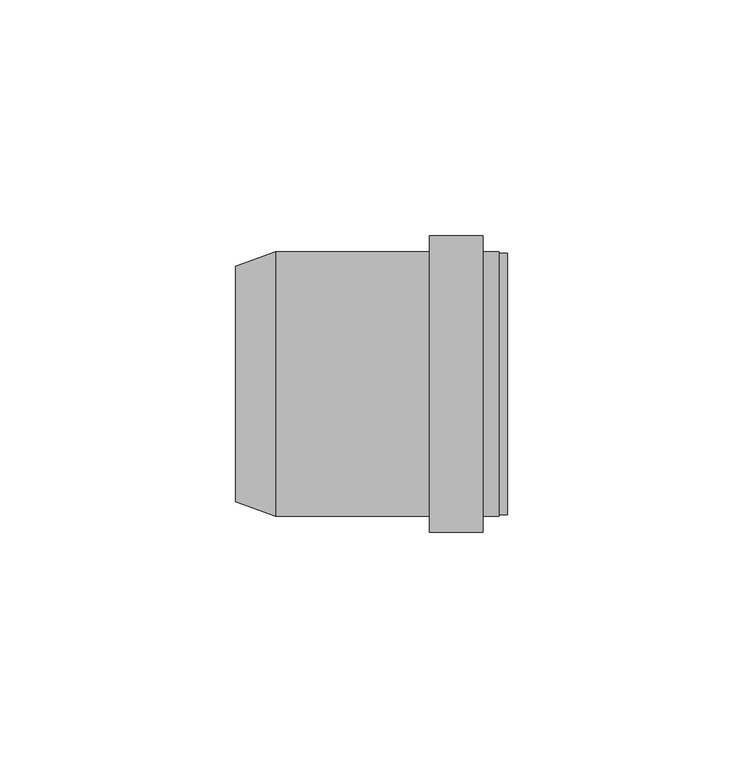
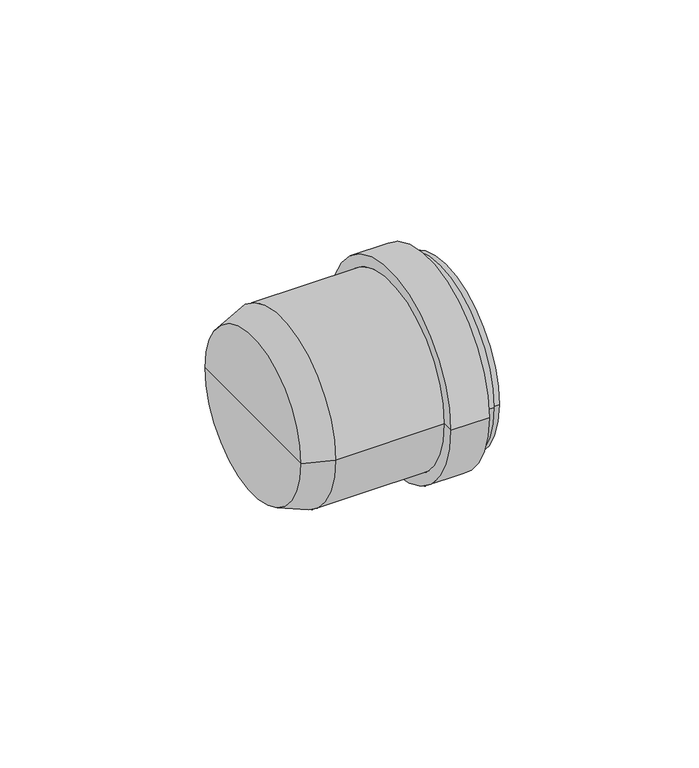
"""IFC4 building model written with IfcOpenShell, lengths in millimetres: pipe fitting geometry, pf_HTM_zatka : pf_HTM_zatka."""

import ifcopenshell
import ifcopenshell.guid

model = None  # the IFC model being written
_history = None  # IfcOwnerHistory: only IFC2X3 demands one
_inside = {}  # id of a spatial element -> (the spatial element, [elements in it])
_under = {}  # id of a project, library or spatial element -> (it, [spatial elements below it])
_declared = {}  # id of a project -> (the project, [libraries it declares])
_typed = {}  # id of a type object -> (the type object, [elements of that type])
_made_of = {}  # id of a material, layer set ... -> (it, [elements and type objects made of it])


def new_model(schema):
    """Start an empty IFC model of exactly this schema.

    Asked for "IFC4X3", IfcOpenShell would pick the latest addendum, in which some entities
    have other attributes; the version numbers below select the first issue.
    IFC2X3 requires an IfcOwnerHistory on every rooted entity: one is made here for all.
    """
    global model, _history
    if schema == "IFC4X3":
        model = ifcopenshell.file(schema_version=(4, 3, 0, 0))
    else:
        model = ifcopenshell.file(schema=schema)
    _inside.clear()
    _under.clear()
    _declared.clear()
    _typed.clear()
    _made_of.clear()
    _history = None
    if model.schema == "IFC2X3":
        org = make("IfcOrganization", Name="unknown")
        user = make(
            "IfcPersonAndOrganization",
            ThePerson=make("IfcPerson", FamilyName="unknown"),
            TheOrganization=org,
        )
        app = make(
            "IfcApplication",
            ApplicationDeveloper=org,
            Version="unknown",
            ApplicationFullName="unknown",
            ApplicationIdentifier="unknown",
        )
        _history = make(
            "IfcOwnerHistory",
            OwningUser=user,
            OwningApplication=app,
            ChangeAction="ADDED",
            CreationDate=0,
        )
    return model


def make(cls, **values):
    """One entity of the class cls with the attributes given. An attribute that is None is left unset."""
    return model.create_entity(
        cls, **{name: value for name, value in values.items() if value is not None}
    )


def rooted(cls, **values):
    """An entity with a GlobalId (a new one), such as an element, a storey or a relation."""
    return make(cls, GlobalId=ifcopenshell.guid.new(), OwnerHistory=_history, **values)


def si_unit(unit_type, name, prefix=None):
    """IfcSIUnit, for example si_unit("LENGTHUNIT", "METRE", prefix="MILLI")."""
    return make("IfcSIUnit", UnitType=unit_type, Prefix=prefix, Name=name)


def assignment(units):
    """IfcUnitAssignment: the units of a project."""
    return None if units is None else make("IfcUnitAssignment", Units=units)


def point(xyz):
    """IfcCartesianPoint."""
    return None if xyz is None else make("IfcCartesianPoint", Coordinates=xyz)


def direction(xyz):
    """IfcDirection."""
    return None if xyz is None else make("IfcDirection", DirectionRatios=xyz)


def frame(location, z_axis=None, x_axis=None):
    """IfcAxis2Placement3D, a coordinate frame: its origin and axes. An axis left out is left unset."""
    return make(
        "IfcAxis2Placement3D",
        Location=point(location),
        Axis=direction(z_axis),
        RefDirection=direction(x_axis),
    )


def origin():
    """The frame at (0, 0, 0) with its axes left unset."""
    return frame((0.0, 0.0, 0.0))


def place(relative_to, where):
    """IfcLocalPlacement: puts the frame where relative to a parent placement (None: the world)."""
    return make(
        "IfcLocalPlacement", PlacementRelTo=relative_to, RelativePlacement=where
    )


def context(
    kind, dimensions, precision=None, world=None, true_north=None, identifier=None
):
    """IfcGeometricRepresentationContext, for example the 3D "Model" context."""
    return make(
        "IfcGeometricRepresentationContext",
        ContextIdentifier=identifier,
        ContextType=kind,
        CoordinateSpaceDimension=dimensions,
        Precision=precision,
        WorldCoordinateSystem=world,
        TrueNorth=true_north,
    )


def project(units=None, contexts=None):
    """IfcProject with its units and contexts."""
    return rooted(
        "IfcProject",
        Name="project",
        RepresentationContexts=contexts,
        UnitsInContext=assignment(units),
    )


def spatial(cls, under=None, at=None, **own):
    """A site, building, storey or space (cls), placed at a placement, below another one or the project."""
    s = rooted(cls, ObjectPlacement=at, **own)
    if under is not None:
        _under.setdefault(under.id(), (under, []))[1].append(s)
    return s


def polyline(points):
    """IfcPolyline through the points."""
    return make("IfcPolyline", Points=[point(p) for p in points])


def circle_curve(where, radius):
    """IfcCircle in the frame where."""
    return make("IfcCircle", Position=where, Radius=radius)


def shape(context_of_items, identifier, shape_type, items):
    """IfcShapeRepresentation: the items that make up one representation, for example the "Body"."""
    return make(
        "IfcShapeRepresentation",
        ContextOfItems=context_of_items,
        RepresentationIdentifier=identifier,
        RepresentationType=shape_type,
        Items=items,
    )


def source(mapping_origin, context_of_items, identifier, shape_type, items):
    """IfcRepresentationMap: a shape defined once, which mapped items show again and again."""
    return make(
        "IfcRepresentationMap",
        MappingOrigin=mapping_origin,
        MappedRepresentation=shape(context_of_items, identifier, shape_type, items),
    )


def transform(
    local_origin,
    x_axis=None,
    y_axis=None,
    z_axis=None,
    scale=None,
    scale2=None,
    scale3=None,
    uniform=True,
):
    """IfcCartesianTransformationOperator3D, or its non-uniform kind. x_axis, y_axis, z_axis: its Axis1, 2, 3."""
    if uniform:
        return make(
            "IfcCartesianTransformationOperator3D",
            Axis1=direction(x_axis),
            Axis2=direction(y_axis),
            LocalOrigin=point(local_origin),
            Scale=scale,
            Axis3=direction(z_axis),
        )
    return make(
        "IfcCartesianTransformationOperator3DnonUniform",
        Axis1=direction(x_axis),
        Axis2=direction(y_axis),
        LocalOrigin=point(local_origin),
        Scale=scale,
        Axis3=direction(z_axis),
        Scale2=scale2,
        Scale3=scale3,
    )


def mapped(mapping_source, mapping_target):
    """IfcMappedItem: shows the shape of a source again, moved by a transform."""
    return make(
        "IfcMappedItem", MappingSource=mapping_source, MappingTarget=mapping_target
    )


def made_of(thing, what):
    """Note that an element or type object is made of a material, layer set ...; save() writes the relation."""
    if what is not None:
        _made_of.setdefault(what.id(), (what, []))[1].append(thing)
    return thing


def element(
    cls,
    number,
    at=None,
    inside=None,
    cuts=None,
    type_object=None,
    material=None,
    context=None,
    identifier="Body",
    shape_type=None,
    held_by="IfcProductDefinitionShape",
    body=None,
    shapes=None,
    **own,
):
    """One element of the class cls, such as IfcWall. Its Tag is "e" and its number.

    at: its placement. inside: the storey or other place that contains it. cuts: it is an
    opening in that element (IfcRelVoidsElement). A single representation is given by context,
    identifier, shape_type and body (its items); several are given by shapes. held_by: the class
    of the entity that holds the representations. save() writes the other relations.
    """
    e = rooted(cls, Tag="e%d" % number, ObjectPlacement=at, **own)
    if body is not None:
        shapes = [shape(context, identifier, shape_type, body)]
    if shapes is not None:
        e.Representation = make(held_by, Representations=shapes)
    if inside is not None:
        _inside.setdefault(inside.id(), (inside, []))[1].append(e)
    if cuts is not None:
        rooted(
            "IfcRelVoidsElement", RelatingBuildingElement=cuts, RelatedOpeningElement=e
        )
    if type_object is not None:
        _typed.setdefault(type_object.id(), (type_object, []))[1].append(e)
    return made_of(e, material)


def aggregate(whole, parts):
    """IfcRelAggregates: a whole, such as a stair, and the parts it consists of."""
    return rooted("IfcRelAggregates", RelatingObject=whole, RelatedObjects=parts)


def save(model, path):
    """Write the relations noted so far, then the file.

    IfcRelAggregates (storeys below a building ...), IfcRelContainedInSpatialStructure (elements
    in a storey), IfcRelDefinesByType, IfcRelAssociatesMaterial and IfcRelDeclares: one each for
    every whole, place, type object, material and project.
    """
    for whole, parts in _under.values():
        aggregate(whole, parts)
    for where, things in _inside.values():
        rooted(
            "IfcRelContainedInSpatialStructure",
            RelatedElements=things,
            RelatingStructure=where,
        )
    for kind, things in _typed.values():
        rooted("IfcRelDefinesByType", RelatedObjects=things, RelatingType=kind)
    for what, things in _made_of.values():
        rooted("IfcRelAssociatesMaterial", RelatedObjects=things, RelatingMaterial=what)
    for by, libraries in _declared.values():
        rooted("IfcRelDeclares", RelatingContext=by, RelatedDefinitions=libraries)
    model.write(path)


def plane_surface(at):
    """IfcPlane: the flat surface through the origin of the frame at, square to its z axis."""
    return make("IfcPlane", Position=at)


def cylinder_surface(at, radius):
    """IfcCylindricalSurface: all points at the distance radius from the z axis of the frame at."""
    return make("IfcCylindricalSurface", Position=at, Radius=radius)


def revolved_surface(curve, axis_point, axis_direction):
    """IfcSurfaceOfRevolution: the curve turned about the line through axis_point along axis_direction."""
    return make(
        "IfcSurfaceOfRevolution",
        SweptCurve=make("IfcArbitraryOpenProfileDef", ProfileType="CURVE", Curve=curve),
        AxisPosition=make("IfcAxis1Placement", Location=point(axis_point), Axis=direction(axis_direction)),
    )


def advanced_brep(points, edges, surfaces, faces):
    """IfcAdvancedBrep: a solid bounded by faces that lie on surfaces and meet in shared edges.

    An edge is (start, end): straight between two places in points (the first is 0);
    or (start, end, curve); or (start, end, curve, False) where it runs against its curve.
    A face is (place in surfaces, loops), or (place, loops, False) where it looks against
    its surface's normal. A loop lists edges by number (the first is 1), with a minus sign
    where the edge is run from its end to its start. The first loop is the outer one.
    """
    corners = [point(p) for p in points]
    vertices = [make("IfcVertexPoint", VertexGeometry=c) for c in corners]
    made = []
    for start, end, *more in edges:
        made.append(
            make(
                "IfcEdgeCurve",
                EdgeStart=vertices[start],
                EdgeEnd=vertices[end],
                EdgeGeometry=more[0] if more else make("IfcPolyline", Points=[corners[start], corners[end]]),
                SameSense=more[1] if len(more) > 1 else True,
            )
        )
    hull = []
    for where, loops, *sense in faces:
        bounds = []
        for j, loop in enumerate(loops):
            ring = [make("IfcOrientedEdge", EdgeElement=made[abs(k) - 1], Orientation=k > 0) for k in loop]
            bounds.append(
                make(
                    "IfcFaceOuterBound" if j == 0 else "IfcFaceBound",
                    Bound=make("IfcEdgeLoop", EdgeList=ring),
                    Orientation=True,
                )
            )
        hull.append(make("IfcAdvancedFace", Bounds=bounds, FaceSurface=surfaces[where], SameSense=sense[0] if sense else True))
    return make("IfcAdvancedBrep", Outer=make("IfcClosedShell", CfsFaces=hull))


def pipe_fitting_10db389b(model_context):
    return source(origin(), model_context, "Body", "AdvancedBrep", [
        advanced_brep(
        [(-56.0, -25.0, 0.0), (-56.0, 25.0, 0.0), (-47.5, 28.1, 0.0), (-47.5, -28.1, 0.0), (-56.0, 0.0, 0.0), (0.0, -28.1, 0.0), (0.0, 28.1, 0.0), (0.0, 0.0, 0.0), (-3.4, -28.1, 0.0), (-3.4, 28.1, 0.0), (-3.4, -31.5, 0.0), (-3.4, 31.5, 0.0), (-14.8, -31.5, 0.0), (-14.8, 31.5, 0.0), (-14.8, -28.1, 0.0), (-14.8, 28.1, 0.0)],
        [
            (0, 1, circle_curve(frame((-56.0, 0.0, 0.0), z_axis=(1.0, 0.0, 0.0), x_axis=(0.0, 1.0, 0.0)), 25.0)),
            (1, 2),
            (2, 3, circle_curve(frame((-47.5, 0.0, 0.0), z_axis=(-1.0, 0.0, 0.0), x_axis=(0.0, 1.0, 0.0)), 28.1)),
            (3, 0),
            (1, 0, circle_curve(frame((-56.0, 0.0, 0.0), z_axis=(1.0, 0.0, 0.0), x_axis=(0.0, 1.0, 0.0)), 25.0)),
            (3, 2, circle_curve(frame((-47.5, 0.0, 0.0), z_axis=(-1.0, 0.0, 0.0), x_axis=(0.0, 1.0, 0.0)), 28.1)),
            (4, 1),
            (0, 4),
            (5, 6, circle_curve(frame((0.0, 0.0, 0.0), z_axis=(1.0, 0.0, 0.0), x_axis=(0.0, 1.0, 0.0)), 28.1)),
            (6, 7),
            (7, 5),
            (6, 5, circle_curve(frame((0.0, 0.0, 0.0), z_axis=(1.0, 0.0, 0.0), x_axis=(0.0, 1.0, 0.0)), 28.1)),
            (8, 9, circle_curve(frame((-3.4, 0.0, 0.0), z_axis=(1.0, 0.0, 0.0), x_axis=(0.0, 1.0, 0.0)), 28.1)),
            (9, 6),
            (5, 8),
            (9, 8, circle_curve(frame((-3.4, 0.0, 0.0), z_axis=(1.0, 0.0, 0.0), x_axis=(0.0, 1.0, 0.0)), 28.1)),
            (10, 11, circle_curve(frame((-3.4, 0.0, 0.0), z_axis=(1.0, 0.0, 0.0), x_axis=(0.0, 1.0, 0.0)), 31.5)),
            (11, 9),
            (8, 10),
            (11, 10, circle_curve(frame((-3.4, 0.0, 0.0), z_axis=(1.0, 0.0, 0.0), x_axis=(0.0, 1.0, 0.0)), 31.5)),
            (12, 13, circle_curve(frame((-14.8, 0.0, 0.0), z_axis=(1.0, 0.0, 0.0), x_axis=(0.0, 1.0, 0.0)), 31.5)),
            (13, 11),
            (10, 12),
            (13, 12, circle_curve(frame((-14.8, 0.0, 0.0), z_axis=(1.0, 0.0, 0.0), x_axis=(0.0, 1.0, 0.0)), 31.5)),
            (14, 15, circle_curve(frame((-14.8, 0.0, 0.0), z_axis=(1.0, 0.0, 0.0), x_axis=(0.0, 1.0, 0.0)), 28.1)),
            (15, 13),
            (12, 14),
            (15, 14, circle_curve(frame((-14.8, 0.0, 0.0), z_axis=(1.0, 0.0, 0.0), x_axis=(0.0, 1.0, 0.0)), 28.1)),
            (2, 15),
            (14, 3),
        ],
        [
            revolved_surface(polyline([(-47.5, 28.1, 0.0), (-56.0, 25.0, 0.0)]), (-56.0, 0.0, 0.0), (-1.0, 0.0, 0.0)),
            plane_surface(frame((-56.0, 0.0, 0.0), z_axis=(-1.0, 0.0, 0.0), x_axis=(0.0, 1.0, 0.0))),
            plane_surface(frame((0.0, 0.0, 0.0), z_axis=(1.0, 0.0, 0.0), x_axis=(0.0, 1.0, 0.0))),
            cylinder_surface(frame((-56.0, 0.0, 0.0), z_axis=(-1.0, 0.0, 0.0), x_axis=(0.0, 1.0, 0.0)), 28.1),
            plane_surface(frame((-3.4, 0.0, 0.0), z_axis=(1.0, 0.0, 0.0), x_axis=(0.0, 1.0, 0.0))),
            cylinder_surface(frame((-56.0, 0.0, 0.0), z_axis=(-1.0, 0.0, 0.0), x_axis=(0.0, 1.0, 0.0)), 31.5),
            plane_surface(frame((-14.8, 0.0, 0.0), z_axis=(-1.0, 0.0, 0.0), x_axis=(0.0, 1.0, 0.0))),
        ],
        [
            (0, [[1, 2, 3, 4]]),
            (0, [[5, -4, 6, -2]]),
            (1, [[7, -1, 8]]),
            (1, [[-8, -5, -7]]),
            (2, [[9, 10, 11]]),
            (2, [[12, -11, -10]]),
            (3, [[13, 14, -9, 15]]),
            (3, [[16, -15, -12, -14]]),
            (4, [[17, 18, -13, 19]]),
            (4, [[20, -19, -16, -18]]),
            (5, [[21, 22, -17, 23]]),
            (5, [[24, -23, -20, -22]]),
            (6, [[25, 26, -21, 27]]),
            (6, [[28, -27, -24, -26]]),
            (3, [[-3, 29, -25, 30]]),
            (3, [[-6, -30, -28, -29]]),
        ],
    ),
        advanced_brep(
        [(-38.0, 0.0, 0.0), (-38.0, 25.0, 0.0), (-38.0, -25.0, 0.0), (1.8, -27.74, 0.0), (1.8, 27.74, 0.0), (1.8, 0.0, 0.0), (0.0, -27.74, 0.0), (0.0, 27.74, 0.0), (0.0, -25.94, 0.0), (0.0, 25.94, 0.0), (-34.0, -25.94, 0.0), (-34.0, 25.94, 0.0)],
        [
            (0, 1),
            (1, 2, circle_curve(frame((-38.0, 0.0, 0.0), z_axis=(-1.0, 0.0, 0.0), x_axis=(0.0, 1.0, 0.0)), 25.0)),
            (2, 0),
            (2, 1, circle_curve(frame((-38.0, 0.0, 0.0), z_axis=(-1.0, 0.0, 0.0), x_axis=(0.0, 1.0, 0.0)), 25.0)),
            (3, 4, circle_curve(frame((1.8, 0.0, 0.0), z_axis=(1.0, 0.0, 0.0), x_axis=(0.0, 1.0, 0.0)), 27.74)),
            (4, 5),
            (5, 3),
            (4, 3, circle_curve(frame((1.8, 0.0, 0.0), z_axis=(1.0, 0.0, 0.0), x_axis=(0.0, 1.0, 0.0)), 27.74)),
            (6, 7, circle_curve(frame((0.0, 0.0, 0.0), z_axis=(1.0, 0.0, 0.0), x_axis=(0.0, 1.0, 0.0)), 27.74)),
            (7, 4),
            (3, 6),
            (7, 6, circle_curve(frame((0.0, 0.0, 0.0), z_axis=(1.0, 0.0, 0.0), x_axis=(0.0, 1.0, 0.0)), 27.74)),
            (8, 9, circle_curve(frame((0.0, 0.0, 0.0), z_axis=(1.0, 0.0, 0.0), x_axis=(0.0, 1.0, 0.0)), 25.94)),
            (9, 7),
            (6, 8),
            (9, 8, circle_curve(frame((0.0, 0.0, 0.0), z_axis=(1.0, 0.0, 0.0), x_axis=(0.0, 1.0, 0.0)), 25.94)),
            (10, 11, circle_curve(frame((-34.0, 0.0, 0.0), z_axis=(1.0, 0.0, 0.0), x_axis=(0.0, 1.0, 0.0)), 25.94)),
            (11, 9),
            (8, 10),
            (11, 10, circle_curve(frame((-34.0, 0.0, 0.0), z_axis=(1.0, 0.0, 0.0), x_axis=(0.0, 1.0, 0.0)), 25.94)),
            (1, 11),
            (10, 2),
        ],
        [
            plane_surface(frame((-38.0, 0.0, 0.0), z_axis=(-1.0, 0.0, 0.0), x_axis=(0.0, 1.0, 0.0))),
            plane_surface(frame((1.8, 0.0, 0.0), z_axis=(1.0, 0.0, 0.0), x_axis=(0.0, 1.0, 0.0))),
            cylinder_surface(frame((-37.0241529, 0.0, 0.0), z_axis=(-1.0, 0.0, 0.0), x_axis=(0.0, 1.0, 0.0)), 27.74),
            plane_surface(frame((0.0, 0.0, 0.0), z_axis=(-1.0, 0.0, 0.0), x_axis=(0.0, 1.0, 0.0))),
            cylinder_surface(frame((-37.0241529, 0.0, 0.0), z_axis=(-1.0, 0.0, 0.0), x_axis=(0.0, 1.0, 0.0)), 25.94),
            revolved_surface(polyline([(-34.0, 25.94, 0.0), (-38.0, 25.0, 0.0)]), (-37.0241529, 0.0, 0.0), (-1.0, 0.0, 0.0)),
        ],
        [
            (0, [[1, 2, 3]]),
            (0, [[-3, 4, -1]]),
            (1, [[5, 6, 7]]),
            (1, [[8, -7, -6]]),
            (2, [[9, 10, -5, 11]]),
            (2, [[12, -11, -8, -10]]),
            (3, [[13, 14, -9, 15]]),
            (3, [[16, -15, -12, -14]]),
            (4, [[17, 18, -13, 19]]),
            (4, [[20, -19, -16, -18]]),
            (5, [[-2, 21, -17, 22]]),
            (5, [[-4, -22, -20, -21]]),
        ],
    ),
    ])


if __name__ == "__main__":
    model = new_model("IFC4")
    model_context = context("Model", 3, world=origin())
    ifc_project = project(units=[si_unit("LENGTHUNIT", "METRE", prefix="MILLI")], contexts=[model_context])
    site = spatial("IfcSite", under=ifc_project)
    building = spatial("IfcBuilding", under=site)
    placement = place(None, origin())
    pipe_fitting_shape = pipe_fitting_10db389b(model_context)
    element("IfcPipeFitting", 1, ObjectType="pf_HTM_zatka : pf_HTM_zatka", at=placement, inside=building, context=model_context, shape_type="MappedRepresentation", body=[
        mapped(pipe_fitting_shape, transform((0.0, 0.0, 0.0), x_axis=(1.0, 0.0, 0.0), y_axis=(0.0, 1.0, 0.0), z_axis=(0.0, 0.0, 1.0))),
    ])
    save(model, "model.ifc")
